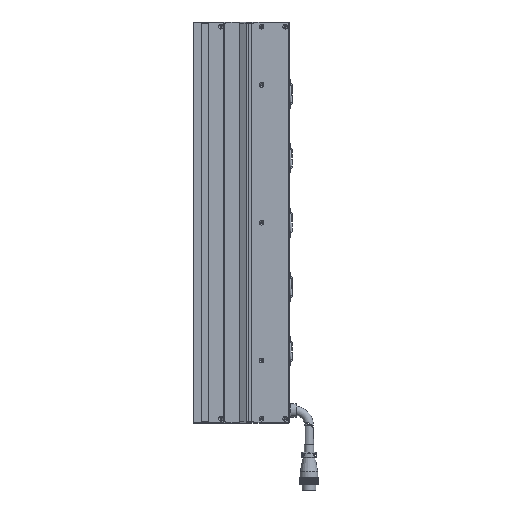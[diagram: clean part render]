
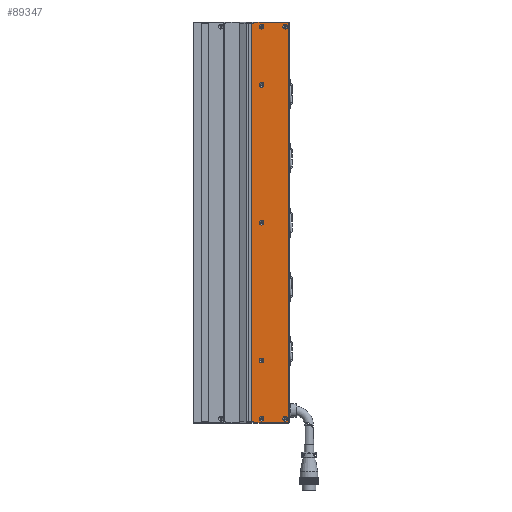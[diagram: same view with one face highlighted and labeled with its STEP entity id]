
A CAD part, left-side view. The second image highlights one B-rep face of the part: STEP entity #89347.
In plain terms, the highlighted planar face has unit normal (-1, 0, 0).
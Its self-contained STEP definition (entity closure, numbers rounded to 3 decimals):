
#1172 = CARTESIAN_POINT ( 'NONE',  ( -24.998, -36.5, 256. ) ) ;
#3580 = DIRECTION ( 'NONE',  ( 1., 0., 0. ) ) ;
#3808 = ORIENTED_EDGE ( 'NONE', *, *, #73219, .T. ) ;
#4554 = CIRCLE ( 'NONE', #33417, 3.15 ) ;
#6567 = EDGE_CURVE ( 'NONE', #24943, #24943, #92756, .T. ) ;
#6959 = VERTEX_POINT ( 'NONE', #27131 ) ;
#7352 = VERTEX_POINT ( 'NONE', #84837 ) ;
#7409 = DIRECTION ( 'NONE',  ( 0., 0., 1. ) ) ;
#7497 = ORIENTED_EDGE ( 'NONE', *, *, #70103, .F. ) ;
#8392 = FACE_OUTER_BOUND ( 'NONE', #61654, .T. ) ;
#8665 = VERTEX_POINT ( 'NONE', #61202 ) ;
#9257 = LINE ( 'NONE', #106868, #51663 ) ;
#9807 = FACE_BOUND ( 'NONE', #54148, .T. ) ;
#10225 = DIRECTION ( 'NONE',  ( -1., 0., 0. ) ) ;
#10491 = EDGE_CURVE ( 'NONE', #7352, #6959, #89306, .T. ) ;
#10586 = ORIENTED_EDGE ( 'NONE', *, *, #102231, .F. ) ;
#10592 = AXIS2_PLACEMENT_3D ( 'NONE', #1172, #51618, #69035 ) ;
#10846 = ORIENTED_EDGE ( 'NONE', *, *, #75730, .F. ) ;
#11398 = VERTEX_POINT ( 'NONE', #37494 ) ;
#12398 = FACE_BOUND ( 'NONE', #107944, .T. ) ;
#12969 = CIRCLE ( 'NONE', #100981, 3.15 ) ;
#13267 = DIRECTION ( 'NONE',  ( 0., 0., 1. ) ) ;
#13622 = CARTESIAN_POINT ( 'NONE',  ( -24.998, -23.25, -260. ) ) ;
#13816 = DIRECTION ( 'NONE',  ( 0., 0., -1. ) ) ;
#14616 = VERTEX_POINT ( 'NONE', #25284 ) ;
#15287 = CARTESIAN_POINT ( 'NONE',  ( -24.998, -36.5, -180. ) ) ;
#15347 = CARTESIAN_POINT ( 'NONE',  ( -24.998, -72.5, 260. ) ) ;
#16646 = EDGE_LOOP ( 'NONE', ( #7497 ) ) ;
#17276 = CARTESIAN_POINT ( 'NONE',  ( -24.998, -67.5, -256. ) ) ;
#20199 = VERTEX_POINT ( 'NONE', #68112 ) ;
#20204 = ORIENTED_EDGE ( 'NONE', *, *, #10491, .T. ) ;
#21893 = VERTEX_POINT ( 'NONE', #59240 ) ;
#22483 = ORIENTED_EDGE ( 'NONE', *, *, #100922, .F. ) ;
#23108 = FACE_BOUND ( 'NONE', #99986, .T. ) ;
#23938 = DIRECTION ( 'NONE',  ( 0., 0., 1. ) ) ;
#24502 = CARTESIAN_POINT ( 'NONE',  ( -24.998, -23.25, -260. ) ) ;
#24730 = ORIENTED_EDGE ( 'NONE', *, *, #109602, .T. ) ;
#24943 = VERTEX_POINT ( 'NONE', #35851 ) ;
#25187 = DIRECTION ( 'NONE',  ( 0., 0., 1. ) ) ;
#25284 = CARTESIAN_POINT ( 'NONE',  ( -24.998, -26.5, -260. ) ) ;
#27131 = CARTESIAN_POINT ( 'NONE',  ( -24.998, -72., 261.5 ) ) ;
#30988 = AXIS2_PLACEMENT_3D ( 'NONE', #45814, #3580, #99302 ) ;
#31392 = ORIENTED_EDGE ( 'NONE', *, *, #6567, .F. ) ;
#31419 = PLANE ( 'NONE',  #30988 ) ;
#32415 = DIRECTION ( 'NONE',  ( -1., 0., 0. ) ) ;
#33417 = AXIS2_PLACEMENT_3D ( 'NONE', #83800, #101609, #7409 ) ;
#33561 = EDGE_CURVE ( 'NONE', #20199, #14616, #92456, .T. ) ;
#34858 = DIRECTION ( 'NONE',  ( 0., 1., 0. ) ) ;
#35028 = EDGE_LOOP ( 'NONE', ( #10586 ) ) ;
#35851 = CARTESIAN_POINT ( 'NONE',  ( -24.998, -36.5, 183.15 ) ) ;
#36040 = ORIENTED_EDGE ( 'NONE', *, *, #47902, .F. ) ;
#37099 = AXIS2_PLACEMENT_3D ( 'NONE', #80424, #37699, #55516 ) ;
#37494 = CARTESIAN_POINT ( 'NONE',  ( -24.998, -67.5, -252.85 ) ) ;
#37699 = DIRECTION ( 'NONE',  ( -1., 0., 0. ) ) ;
#39998 = DIRECTION ( 'NONE',  ( 0., 0., 1. ) ) ;
#41033 = CARTESIAN_POINT ( 'NONE',  ( -24.998, -72., 260. ) ) ;
#41479 = VECTOR ( 'NONE', #76334, 1000. ) ;
#42059 = EDGE_CURVE ( 'NONE', #82024, #14616, #68952, .T. ) ;
#43462 = DIRECTION ( 'NONE',  ( 0., 1., 0. ) ) ;
#45150 = AXIS2_PLACEMENT_3D ( 'NONE', #15287, #57848, #39998 ) ;
#45166 = EDGE_CURVE ( 'NONE', #106987, #106987, #12969, .T. ) ;
#45814 = CARTESIAN_POINT ( 'NONE',  ( -24.998, -72.5, 260. ) ) ;
#45836 = AXIS2_PLACEMENT_3D ( 'NONE', #69873, #10225, #86549 ) ;
#47145 = CIRCLE ( 'NONE', #45150, 3.15 ) ;
#47902 = EDGE_CURVE ( 'NONE', #64512, #64512, #88236, .T. ) ;
#48051 = LINE ( 'NONE', #13622, #90558 ) ;
#48799 = VERTEX_POINT ( 'NONE', #79067 ) ;
#49820 = VERTEX_POINT ( 'NONE', #57460 ) ;
#51618 = DIRECTION ( 'NONE',  ( -1., 0., 0. ) ) ;
#51663 = VECTOR ( 'NONE', #13816, 1000. ) ;
#51709 = VECTOR ( 'NONE', #73170, 1000. ) ;
#54148 = EDGE_LOOP ( 'NONE', ( #56728 ) ) ;
#55516 = DIRECTION ( 'NONE',  ( 0., 0., 1. ) ) ;
#55816 = CARTESIAN_POINT ( 'NONE',  ( -24.998, -36.5, -252.85 ) ) ;
#56164 = CARTESIAN_POINT ( 'NONE',  ( -24.998, -36.5, 3.15 ) ) ;
#56226 = FACE_BOUND ( 'NONE', #77104, .T. ) ;
#56728 = ORIENTED_EDGE ( 'NONE', *, *, #80658, .F. ) ;
#57029 = LINE ( 'NONE', #61699, #75683 ) ;
#57411 = FACE_BOUND ( 'NONE', #16646, .T. ) ;
#57460 = CARTESIAN_POINT ( 'NONE',  ( -24.998, -23.25, 260. ) ) ;
#57848 = DIRECTION ( 'NONE',  ( -1., 0., 0. ) ) ;
#58151 = CARTESIAN_POINT ( 'NONE',  ( -24.998, -26.5, -253. ) ) ;
#59240 = CARTESIAN_POINT ( 'NONE',  ( -24.998, -67.5, 259.15 ) ) ;
#61175 = EDGE_LOOP ( 'NONE', ( #31392 ) ) ;
#61202 = CARTESIAN_POINT ( 'NONE',  ( -24.998, -26.5, 260. ) ) ;
#61654 = EDGE_LOOP ( 'NONE', ( #87649, #105176, #22483, #20204, #3808, #24730, #108025, #99877 ) ) ;
#61699 = CARTESIAN_POINT ( 'NONE',  ( -24.998, -72.5, 261.5 ) ) ;
#64124 = LINE ( 'NONE', #15347, #101292 ) ;
#64512 = VERTEX_POINT ( 'NONE', #55816 ) ;
#64576 = VECTOR ( 'NONE', #25187, 1000. ) ;
#68112 = CARTESIAN_POINT ( 'NONE',  ( -24.998, -26.5, -261.5 ) ) ;
#68353 = DIRECTION ( 'NONE',  ( 0., 0., 1. ) ) ;
#68952 = LINE ( 'NONE', #98784, #51709 ) ;
#69035 = DIRECTION ( 'NONE',  ( 0., 0., 1. ) ) ;
#69873 = CARTESIAN_POINT ( 'NONE',  ( -24.998, -36.5, 180. ) ) ;
#69982 = EDGE_CURVE ( 'NONE', #82024, #49820, #48051, .T. ) ;
#70103 = EDGE_CURVE ( 'NONE', #11398, #11398, #81314, .T. ) ;
#73170 = DIRECTION ( 'NONE',  ( 0., -1., 0. ) ) ;
#73219 = EDGE_CURVE ( 'NONE', #6959, #48799, #57029, .T. ) ;
#74836 = VERTEX_POINT ( 'NONE', #79280 ) ;
#75683 = VECTOR ( 'NONE', #43462, 1000. ) ;
#75730 = EDGE_CURVE ( 'NONE', #76355, #76355, #84728, .T. ) ;
#76334 = DIRECTION ( 'NONE',  ( 0., 0., 1. ) ) ;
#76355 = VERTEX_POINT ( 'NONE', #101201 ) ;
#76791 = CARTESIAN_POINT ( 'NONE',  ( -24.998, -72.5, -261.5 ) ) ;
#77104 = EDGE_LOOP ( 'NONE', ( #10846 ) ) ;
#79067 = CARTESIAN_POINT ( 'NONE',  ( -24.998, -26.5, 261.5 ) ) ;
#79157 = VECTOR ( 'NONE', #34858, 1000. ) ;
#79280 = CARTESIAN_POINT ( 'NONE',  ( -24.998, -36.5, -176.85 ) ) ;
#80424 = CARTESIAN_POINT ( 'NONE',  ( -24.998, -36.5, -256. ) ) ;
#80658 = EDGE_CURVE ( 'NONE', #21893, #21893, #4554, .T. ) ;
#81314 = CIRCLE ( 'NONE', #108937, 3.15 ) ;
#82024 = VERTEX_POINT ( 'NONE', #24502 ) ;
#83800 = CARTESIAN_POINT ( 'NONE',  ( -24.998, -67.5, 256. ) ) ;
#84728 = CIRCLE ( 'NONE', #10592, 3.15 ) ;
#84837 = CARTESIAN_POINT ( 'NONE',  ( -24.998, -72., -261.5 ) ) ;
#85420 = FACE_BOUND ( 'NONE', #35028, .T. ) ;
#86549 = DIRECTION ( 'NONE',  ( 0., 0., 1. ) ) ;
#87649 = ORIENTED_EDGE ( 'NONE', *, *, #42059, .T. ) ;
#88070 = FACE_BOUND ( 'NONE', #61175, .T. ) ;
#88236 = CIRCLE ( 'NONE', #37099, 3.15 ) ;
#89306 = LINE ( 'NONE', #41033, #41479 ) ;
#89347 = ADVANCED_FACE ( 'NONE', ( #9807, #56226, #85420, #23108, #88070, #57411, #12398, #8392 ), #31419, .F. ) ;
#90558 = VECTOR ( 'NONE', #13267, 1000. ) ;
#91836 = ORIENTED_EDGE ( 'NONE', *, *, #45166, .F. ) ;
#92456 = LINE ( 'NONE', #58151, #64576 ) ;
#92756 = CIRCLE ( 'NONE', #45836, 3.15 ) ;
#98784 = CARTESIAN_POINT ( 'NONE',  ( -24.998, -72.5, -260. ) ) ;
#99302 = DIRECTION ( 'NONE',  ( 0., 0., -1. ) ) ;
#99877 = ORIENTED_EDGE ( 'NONE', *, *, #69982, .F. ) ;
#99986 = EDGE_LOOP ( 'NONE', ( #91836 ) ) ;
#100297 = CARTESIAN_POINT ( 'NONE',  ( -24.998, -36.5, 0. ) ) ;
#100922 = EDGE_CURVE ( 'NONE', #7352, #20199, #104387, .T. ) ;
#100981 = AXIS2_PLACEMENT_3D ( 'NONE', #100297, #32415, #23938 ) ;
#101201 = CARTESIAN_POINT ( 'NONE',  ( -24.998, -36.5, 259.15 ) ) ;
#101292 = VECTOR ( 'NONE', #108734, 1000. ) ;
#101609 = DIRECTION ( 'NONE',  ( -1., 0., 0. ) ) ;
#102231 = EDGE_CURVE ( 'NONE', #74836, #74836, #47145, .T. ) ;
#104387 = LINE ( 'NONE', #76791, #79157 ) ;
#105176 = ORIENTED_EDGE ( 'NONE', *, *, #33561, .F. ) ;
#105179 = EDGE_CURVE ( 'NONE', #49820, #8665, #64124, .T. ) ;
#106868 = CARTESIAN_POINT ( 'NONE',  ( -24.998, -26.5, 253. ) ) ;
#106987 = VERTEX_POINT ( 'NONE', #56164 ) ;
#107944 = EDGE_LOOP ( 'NONE', ( #36040 ) ) ;
#108025 = ORIENTED_EDGE ( 'NONE', *, *, #105179, .F. ) ;
#108734 = DIRECTION ( 'NONE',  ( 0., -1., 0. ) ) ;
#108937 = AXIS2_PLACEMENT_3D ( 'NONE', #17276, #109198, #68353 ) ;
#109198 = DIRECTION ( 'NONE',  ( -1., 0., 0. ) ) ;
#109602 = EDGE_CURVE ( 'NONE', #48799, #8665, #9257, .T. ) ;
